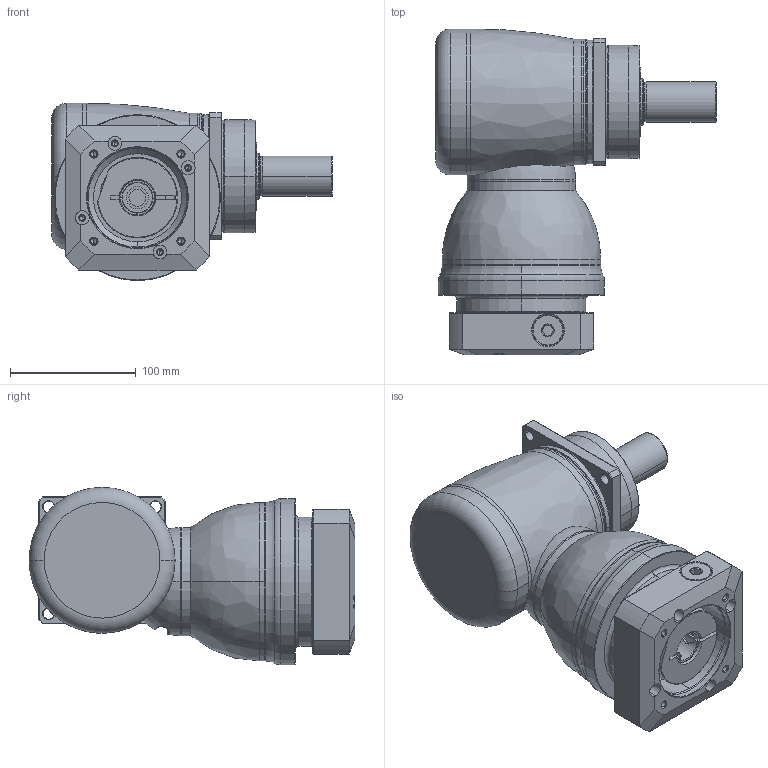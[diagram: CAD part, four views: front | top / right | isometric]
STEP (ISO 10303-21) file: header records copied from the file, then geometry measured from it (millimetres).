
FILE_DESCRIPTION((''),'2;1');
FILE_NAME('KF100_1ST_24-P0409500101_ASM','2016-06-22T',('d01943'),(''),'PRO/ENGINEER BY PARAMETRIC TECHNOLOGY CORPORATION, 2008410','PRO/ENGINEER BY PARAMETRIC TECHNOLOGY CORPORATION, 2008410','');
FILE_SCHEMA(('CONFIG_CONTROL_DESIGN'));
Length unit declared in the file: millimetre
Products named in the file (11): P1008400002; P1804400001; P0915400001; P1315400001; P1007400001; P1318400101; P0409500101; P0503500010; P0912401001; 21711418017; KF100_1ST_24-P0409500101_ASM
Assembly tree (10 placements, depth 2):
  KF100_1ST_24-P0409500101_ASM
    P1008400002
    P1804400001
    P0915400001
    P1315400001
    P1007400001
    P1318400101
    P0409500101
    P0503500010
    P0912401001
    21711418017
Bounding box: 223.3 x 259 x 141 mm (x, y, z)
Volume: 2317076 mm3; surface area: 335434.4 mm2
Topology: 11 solids, 11 shells, 491 faces, 1104 edges, 655 vertices
Faces by surface type: cylinder 166, cone 124, plane 101, torus 62, bspline 36, sphere 2
Entity records: 19789 total; most frequent: CARTESIAN_POINT 8636, DIRECTION 2446, ORIENTED_EDGE 2172, EDGE_CURVE 1086, AXIS2_PLACEMENT_3D 1038, VERTEX_POINT 655, EDGE_LOOP 563, CIRCLE 562
